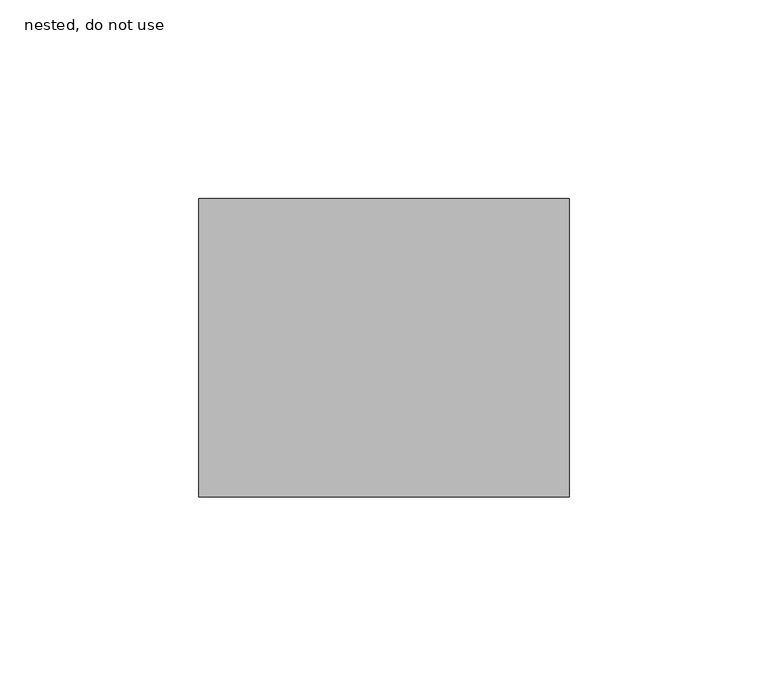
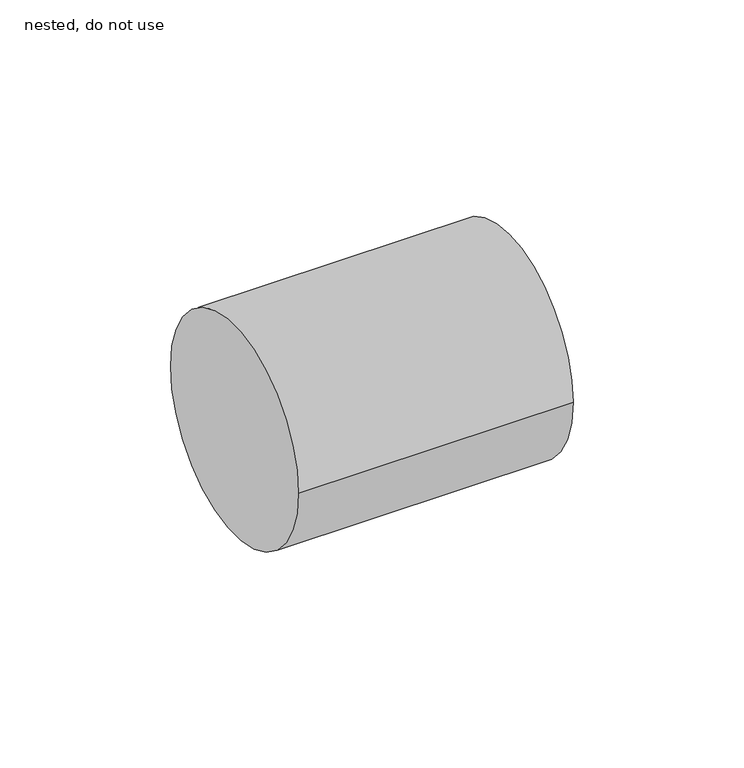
"""IFC4 building model written with IfcOpenShell, lengths in millimetres: pipe fitting geometry, NLRS_52_PIF_UN_Vacurain Flex spiebus_SH_Dyka : nested, do not use."""

from ifc_helpers import new_model, si_unit, point, frame, origin, origin_2d, place, context, project, spatial, circle_curve, trimmed, segment, composite_curve, outline, extrude, source, transform, mapped, element, save


def nested_do_not_use_86b0c81e(model_context):
    return source(origin(), model_context, "Body", "SweptSolid", [
        extrude(outline(composite_curve([segment(trimmed(circle_curve(origin_2d(), 37.5), [point((-37.5, 0.0))], [point((37.5, 0.0))], False, "CARTESIAN"), True, "CONTINUOUS"), segment(trimmed(circle_curve(origin_2d(), 37.5), [point((37.5, 0.0))], [point((-37.5, 0.0))], False, "CARTESIAN"), True, "CONTINUOUS")], self_intersect=False)), frame((-46.5, 0.0, 0.0), z_axis=(1.0, 0.0, 0.0), x_axis=(0.0, 1.0, 0.0)), (0.0, 0.0, 1.0), 93.0),
    ])


if __name__ == "__main__":
    model = new_model("IFC4")
    model_context = context("Model", 3, world=origin())
    ifc_project = project(units=[si_unit("LENGTHUNIT", "METRE", prefix="MILLI")], contexts=[model_context])
    site = spatial("IfcSite", under=ifc_project)
    building = spatial("IfcBuilding", under=site)
    placement = place(None, origin())
    nested_do_not_use_shape = nested_do_not_use_86b0c81e(model_context)
    element("IfcPipeFitting", 1, ObjectType="NLRS_52_PIF_UN_Vacurain Flex spiebus_SH_Dyka : nested, do not use", at=placement, inside=building, context=model_context, shape_type="MappedRepresentation", body=[
        mapped(nested_do_not_use_shape, transform((0.0, 0.0, 0.0), x_axis=(1.0, 0.0, 0.0), y_axis=(0.0, 1.0, 0.0), z_axis=(0.0, 0.0, 1.0))),
    ])
    save(model, "model.ifc")
